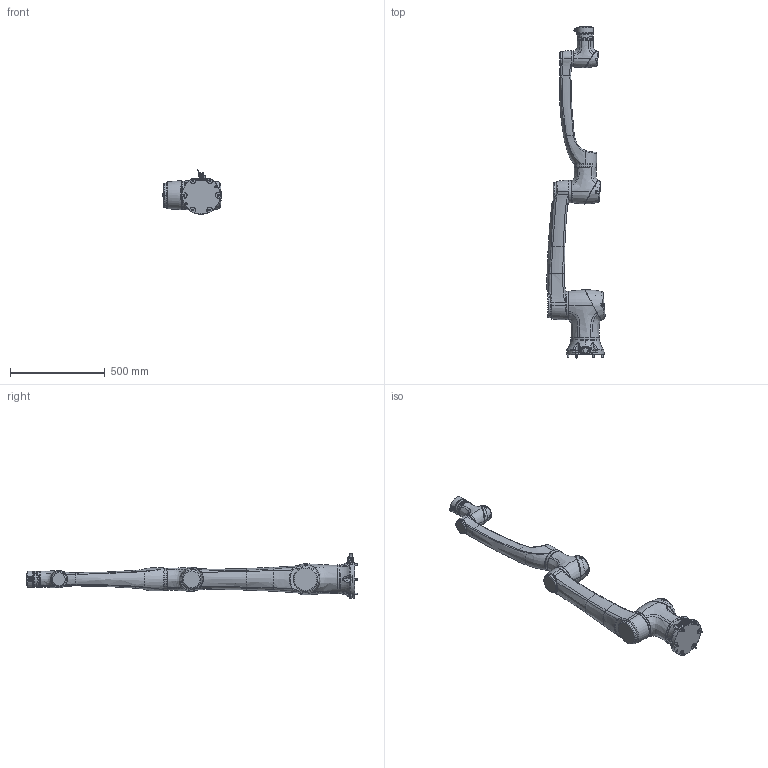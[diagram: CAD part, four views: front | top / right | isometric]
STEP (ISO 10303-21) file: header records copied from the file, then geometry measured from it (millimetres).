
FILE_DESCRIPTION (( 'STEP AP214' ), '1' );
FILE_NAME ('E10L、P10L-IP66、压铸、总线末端机械手模型_20220707.STEP', '2022-07-29T03:41:16', ( '' ), ( '' ), 'SwSTEP 2.0', 'SolidWorks 2020', '' );
FILE_SCHEMA (( 'AUTOMOTIVE_DESIGN' ));
Length unit declared in the file: millimetre
Products named in the file (69): 17模组后端盖模型_20220706_增加锥形孔; Part13.1.2^12B2(2)_12B2-带蓝灯-IP67防水-自复红波按钮2; Part5^12B2(2)_12B2-带蓝灯-IP67防水-自复红波按钮2; Elfin_菁釱郪璃_脣芛裔; Symmetry of Part5.1^12B2(2); Part28.1.1.1^12B2(2)_12B2-带蓝灯-IP67防水-自复红波按钮2; Part13.1^12B2(2)_12B2-带蓝灯-IP67防水-自复红波按钮2; Part6^12B2(2); Part16^12B2(2); Part13.1^12B2(2); 12B2(2); Part16^12B2(2)_12B2-带蓝灯-IP67防水-自复红波按钮2; Part6; Part5.1^12B2(2)_12B2-带蓝灯-IP67防水-自复红波按钮2; E10-L狟旋郪璃耀倰_20220706; 25粣耀郪耀倰_20220706; GB／T70．1-2000内六角圆柱头螺钉M8×30; Part5.1^12B2(2); Part28.1.1^12B2(2)_12B2-带蓝灯-IP67防水-自复红波按钮2; E10L、P10L-IP66、压铸、总线末端机械手模型_20220707; Symmetry of Part5^12B2(2)_12B2-带蓝灯-IP67防水-自复红波按钮2; hexagon socket head cap screws gb_GB_FASTENER_SCREWS_HSHCS M3X16-N; E10-L奻旋耀倰_20220706; 5kg狟旋狟耜裔耀倰_20220706; Part7^12B2(2)_12B2-带蓝灯-IP67防水-自复红波按钮2; 25模组后端盖模型_20220706_增加锥形孔; Part1^12B2(2); Part22^12B2(2)_12B2-带蓝灯-IP67防水-自复红波按钮2; E10-L奻旋郪璃_耀倰_20220706; Symmetry of Part5.1^12B2(2)_12B2-带蓝灯-IP67防水-自复红波按钮2; M3x14_IP66_20190806_2.0_CB3-16; 32耀郪妗极耀倰_20220705; 10kg狟旋狟耜裔耀倰_20220706; 12B2-带蓝灯-IP67防水-自复红波按钮; Part30^12B2(2)_12B2-带蓝灯-IP67防水-自复红波按钮2; hexagon socket head cap screws gb_GB_FASTENER_SCREWS_HSHCS M3X20-N; Elfin_菁釱脣芛; hexagon socket head cap screws gb_GB_FASTENER_SCREWS_HSHCS M3X25-N; Part1^12B2(2)_12B2-带蓝灯-IP67防水-自复红波按钮2; Part22^12B2(2)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
Assembly tree (85 placements, depth 5):
  E10L、P10L-IP66、压铸、总线末端机械手模型_20220707
    10kg菁釱耀倰_20220706
      10kg菁釱耀倰_20220706
      Elfin_菁釱脣芛
        Elfin_菁釱郪璃_脣芛釱
        Elfin_菁釱郪璃_脣芛裔
        Elfin_底座组件_插头卡环
    32axial_module_耀倰_20220627
      32耀郪妗极耀倰_20220705
      hexagon socket head cap screws gb_GB_FASTENER_SCREWS_HSHCS M3X16-N  x3
      hexagon socket head cap screws gb_GB_FASTENER_SCREWS_HSHCS M3X20-N
      32模组后端盖模型_增加锥形孔
    E10-L狟旋郪璃耀倰_20220706
      E10-L狟旋耀倰_20220706
      5kg狟旋狟耜裔耀倰_20220706
      10kg狟旋狟耜裔耀倰_20220706
    25axial_module_耀倰_20220705
      M3x14_IP66_20190806_2.0_CB3-16  x4
      25粣耀郪耀倰_20220706
      25模组后端盖模型_20220706_增加锥形孔
    E10-L奻旋郪璃_耀倰_20220706
      E10-L奻旋耀倰_20220706
      10kg奻旋耜裔耀倰__20220706
    17axial_module_妗极耀倰_20220705
      hexagon socket head cap screws gb_GB_FASTENER_SCREWS_HSHCS M3X25-N
      hexagon socket head cap screws gb_GB_FASTENER_SCREWS_HSHCS M3X20-N  x3
      17粣耀郪妗极耀倰
      17模组后端盖模型_20220706_增加锥形孔
    GB／T70．1-2000内六角圆柱头螺钉M8×30  x6
    17粣藺傷耀倰_IP66_20220707
      5-10kg藺傷俋褲耀倰_IP66
      1419713
      12B2-带蓝灯-IP67防水-自复红波按钮
        12B2(2)
          Part7^12B2(2)
          Part5^12B2(2)
          Part5.1^12B2(2)
          Symmetry of Part5^12B2(2)
          Symmetry of Part5.1^12B2(2)
          Part13.1.2^12B2(2)
          Part30^12B2(2)
          Part13.1^12B2(2)
          Part6^12B2(2)
          Part28.1.1^12B2(2)
          Part1^12B2(2)
          Part7.1^12B2(2)
          Part16^12B2(2)
          Part22^12B2(2)
          Part28.1.1.1^12B2(2)
          M12金属按钮开关螺母
      12B2(2)^12B2-带蓝灯-IP67防水-自复红波按钮2
        Part7^12B2(2)_12B2-带蓝灯-IP67防水-自复红波按钮2
        Part5^12B2(2)_12B2-带蓝灯-IP67防水-自复红波按钮2
        Part5.1^12B2(2)_12B2-带蓝灯-IP67防水-自复红波按钮2
        Symmetry of Part5^12B2(2)_12B2-带蓝灯-IP67防水-自复红波按钮2
        Symmetry of Part5.1^12B2(2)_12B2-带蓝灯-IP67防水-自复红波按钮2
        Part13.1.2^12B2(2)_12B2-带蓝灯-IP67防水-自复红波按钮2
        Part30^12B2(2)_12B2-带蓝灯-IP67防水-自复红波按钮2
        Part13.1^12B2(2)_12B2-带蓝灯-IP67防水-自复红波按钮2
        Part6
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Bounding box: 307.27 x 1750.2 x 234.41 mm (x, y, z)
Volume: 22612059.7 mm3; surface area: 1409584.4 mm2
Topology: 77 solids, 79 shells, 5361 faces, 13636 edges, 8552 vertices
Faces by surface type: plane 2415, bspline 1292, cylinder 1009, cone 346, torus 291, sphere 8
Entity records: 344557 total; most frequent: CARTESIAN_POINT 226475, ORIENTED_EDGE 25372, DIRECTION 19357, EDGE_CURVE 12686, VERTEX_POINT 8020, AXIS2_PLACEMENT_3D 6653, LINE 6051, VECTOR 6051
